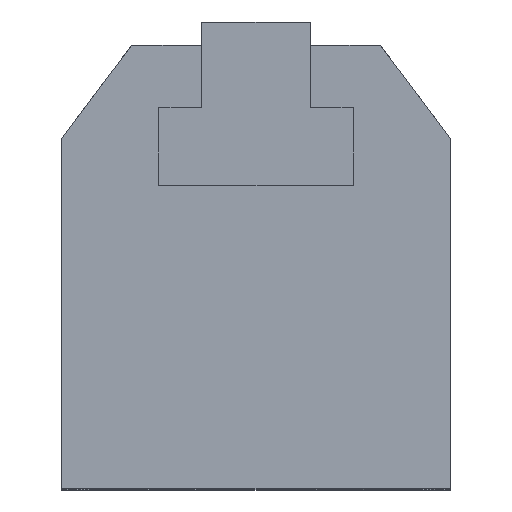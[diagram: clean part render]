
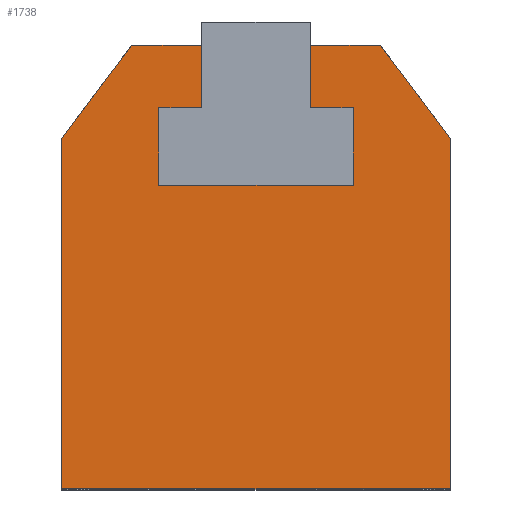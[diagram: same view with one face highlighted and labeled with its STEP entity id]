
A CAD part, top view. The second image highlights one B-rep face of the part: STEP entity #1738.
In plain terms, the highlighted planar face has unit normal (0, 0, 1).
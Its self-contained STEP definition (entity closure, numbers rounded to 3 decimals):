
#6 = EDGE_CURVE ( 'NONE', #269, #7108, #4078, .T. ) ;
#13 = CARTESIAN_POINT ( 'NONE',  ( 0., 0., 50. ) ) ;
#73 = CARTESIAN_POINT ( 'NONE',  ( -12.5, 49., 50. ) ) ;
#76 = VERTEX_POINT ( 'NONE', #3432 ) ;
#100 = VECTOR ( 'NONE', #998, 1000. ) ;
#157 = CARTESIAN_POINT ( 'NONE',  ( -7., 49., 50. ) ) ;
#205 = EDGE_CURVE ( 'NONE', #5886, #3771, #6525, .T. ) ;
#269 = VERTEX_POINT ( 'NONE', #5366 ) ;
#473 = VECTOR ( 'NONE', #3953, 1000. ) ;
#515 = ORIENTED_EDGE ( 'NONE', *, *, #4566, .F. ) ;
#604 = ORIENTED_EDGE ( 'NONE', *, *, #205, .T. ) ;
#649 = EDGE_LOOP ( 'NONE', ( #2380, #6045, #4523, #3733, #515, #1036, #5320, #7314, #4438, #5302, #7344, #3321, #1794, #604 ) ) ;
#878 = CARTESIAN_POINT ( 'NONE',  ( 7., 49., 50. ) ) ;
#998 = DIRECTION ( 'NONE',  ( 0., -1., 0. ) ) ;
#1036 = ORIENTED_EDGE ( 'NONE', *, *, #1790, .F. ) ;
#1047 = CARTESIAN_POINT ( 'NONE',  ( -7., 57., 50. ) ) ;
#1069 = CARTESIAN_POINT ( 'NONE',  ( -25., 45., 50. ) ) ;
#1180 = VERTEX_POINT ( 'NONE', #5367 ) ;
#1291 = DIRECTION ( 'NONE',  ( 0., 0., -1. ) ) ;
#1383 = LINE ( 'NONE', #7462, #4200 ) ;
#1462 = CARTESIAN_POINT ( 'NONE',  ( 12.5, 49., 50. ) ) ;
#1511 = AXIS2_PLACEMENT_3D ( 'NONE', #13, #1291, #6619 ) ;
#1524 = VERTEX_POINT ( 'NONE', #1047 ) ;
#1548 = CARTESIAN_POINT ( 'NONE',  ( -16., 57., 50. ) ) ;
#1655 = LINE ( 'NONE', #3990, #6341 ) ;
#1738 = ADVANCED_FACE ( 'NONE', ( #4762 ), #7262, .F. ) ;
#1790 = EDGE_CURVE ( 'NONE', #4654, #6686, #5141, .T. ) ;
#1794 = ORIENTED_EDGE ( 'NONE', *, *, #1883, .T. ) ;
#1834 = LINE ( 'NONE', #4900, #3413 ) ;
#1840 = VECTOR ( 'NONE', #7058, 1000. ) ;
#1878 = CARTESIAN_POINT ( 'NONE',  ( -7., 49., 50. ) ) ;
#1883 = EDGE_CURVE ( 'NONE', #5847, #5886, #2344, .T. ) ;
#1983 = LINE ( 'NONE', #1548, #473 ) ;
#2158 = CARTESIAN_POINT ( 'NONE',  ( 12.5, 39., 50. ) ) ;
#2231 = CARTESIAN_POINT ( 'NONE',  ( 16., 57., 50. ) ) ;
#2344 = LINE ( 'NONE', #2506, #7479 ) ;
#2380 = ORIENTED_EDGE ( 'NONE', *, *, #6294, .T. ) ;
#2473 = CARTESIAN_POINT ( 'NONE',  ( -12.5, 49., 50. ) ) ;
#2506 = CARTESIAN_POINT ( 'NONE',  ( 25., 0., 50. ) ) ;
#2557 = EDGE_CURVE ( 'NONE', #1524, #1180, #1383, .T. ) ;
#2769 = CARTESIAN_POINT ( 'NONE',  ( 16., 57., 50. ) ) ;
#2853 = CARTESIAN_POINT ( 'NONE',  ( 12.5, 39., 50. ) ) ;
#2997 = VECTOR ( 'NONE', #6503, 1000. ) ;
#3145 = LINE ( 'NONE', #3525, #7174 ) ;
#3176 = DIRECTION ( 'NONE',  ( 1., 0., 0. ) ) ;
#3206 = EDGE_CURVE ( 'NONE', #4954, #269, #1655, .T. ) ;
#3321 = ORIENTED_EDGE ( 'NONE', *, *, #4814, .T. ) ;
#3413 = VECTOR ( 'NONE', #3176, 1000. ) ;
#3432 = CARTESIAN_POINT ( 'NONE',  ( -25., 0., 50. ) ) ;
#3525 = CARTESIAN_POINT ( 'NONE',  ( -12.5, 39., 50. ) ) ;
#3526 = VECTOR ( 'NONE', #4956, 1000. ) ;
#3670 = VECTOR ( 'NONE', #4561, 1000. ) ;
#3733 = ORIENTED_EDGE ( 'NONE', *, *, #4336, .F. ) ;
#3771 = VERTEX_POINT ( 'NONE', #2231 ) ;
#3797 = VECTOR ( 'NONE', #4482, 1000. ) ;
#3953 = DIRECTION ( 'NONE',  ( -0.6, -0.8, 0. ) ) ;
#3990 = CARTESIAN_POINT ( 'NONE',  ( 12.5, 49., 50. ) ) ;
#4032 = CARTESIAN_POINT ( 'NONE',  ( 25., 45., 50. ) ) ;
#4078 = LINE ( 'NONE', #878, #1840 ) ;
#4200 = VECTOR ( 'NONE', #5652, 1000. ) ;
#4283 = EDGE_CURVE ( 'NONE', #6969, #4654, #4443, .T. ) ;
#4336 = EDGE_CURVE ( 'NONE', #7334, #4954, #6991, .T. ) ;
#4438 = ORIENTED_EDGE ( 'NONE', *, *, #2557, .T. ) ;
#4443 = LINE ( 'NONE', #157, #3526 ) ;
#4482 = DIRECTION ( 'NONE',  ( 0., 1., 0. ) ) ;
#4523 = ORIENTED_EDGE ( 'NONE', *, *, #3206, .F. ) ;
#4543 = VERTEX_POINT ( 'NONE', #7728 ) ;
#4561 = DIRECTION ( 'NONE',  ( -1., 0., 0. ) ) ;
#4566 = EDGE_CURVE ( 'NONE', #6686, #7334, #3145, .T. ) ;
#4654 = VERTEX_POINT ( 'NONE', #73 ) ;
#4674 = VECTOR ( 'NONE', #6637, 1000. ) ;
#4762 = FACE_OUTER_BOUND ( 'NONE', #649, .T. ) ;
#4814 = EDGE_CURVE ( 'NONE', #76, #5847, #1834, .T. ) ;
#4900 = CARTESIAN_POINT ( 'NONE',  ( -25., 0., 50. ) ) ;
#4954 = VERTEX_POINT ( 'NONE', #1462 ) ;
#4956 = DIRECTION ( 'NONE',  ( -1., 0., 0. ) ) ;
#5006 = VECTOR ( 'NONE', #5805, 1000. ) ;
#5141 = LINE ( 'NONE', #2473, #4674 ) ;
#5190 = CARTESIAN_POINT ( 'NONE',  ( -12.5, 39., 50. ) ) ;
#5250 = DIRECTION ( 'NONE',  ( -1., 0., 0. ) ) ;
#5262 = LINE ( 'NONE', #2769, #3670 ) ;
#5302 = ORIENTED_EDGE ( 'NONE', *, *, #6263, .T. ) ;
#5320 = ORIENTED_EDGE ( 'NONE', *, *, #4283, .F. ) ;
#5326 = CARTESIAN_POINT ( 'NONE',  ( 25., 45., 50. ) ) ;
#5357 = LINE ( 'NONE', #7624, #100 ) ;
#5366 = CARTESIAN_POINT ( 'NONE',  ( 7., 49., 50. ) ) ;
#5367 = CARTESIAN_POINT ( 'NONE',  ( -16., 57., 50. ) ) ;
#5652 = DIRECTION ( 'NONE',  ( -1., 0., 0. ) ) ;
#5772 = EDGE_CURVE ( 'NONE', #1524, #6969, #5357, .T. ) ;
#5805 = DIRECTION ( 'NONE',  ( -0.6, 0.8, 0. ) ) ;
#5847 = VERTEX_POINT ( 'NONE', #7094 ) ;
#5873 = DIRECTION ( 'NONE',  ( 1., 0., 0. ) ) ;
#5886 = VERTEX_POINT ( 'NONE', #5326 ) ;
#6045 = ORIENTED_EDGE ( 'NONE', *, *, #6, .F. ) ;
#6173 = LINE ( 'NONE', #1069, #2997 ) ;
#6263 = EDGE_CURVE ( 'NONE', #1180, #4543, #1983, .T. ) ;
#6294 = EDGE_CURVE ( 'NONE', #3771, #7108, #5262, .T. ) ;
#6341 = VECTOR ( 'NONE', #5250, 1000. ) ;
#6503 = DIRECTION ( 'NONE',  ( 0., -1., 0. ) ) ;
#6525 = LINE ( 'NONE', #4032, #5006 ) ;
#6619 = DIRECTION ( 'NONE',  ( -1., 0., 0. ) ) ;
#6637 = DIRECTION ( 'NONE',  ( 0., -1., 0. ) ) ;
#6686 = VERTEX_POINT ( 'NONE', #5190 ) ;
#6708 = DIRECTION ( 'NONE',  ( 0., 1., 0. ) ) ;
#6864 = CARTESIAN_POINT ( 'NONE',  ( 7., 57., 50. ) ) ;
#6969 = VERTEX_POINT ( 'NONE', #1878 ) ;
#6991 = LINE ( 'NONE', #2853, #3797 ) ;
#7058 = DIRECTION ( 'NONE',  ( 0., 1., 0. ) ) ;
#7094 = CARTESIAN_POINT ( 'NONE',  ( 25., 0., 50. ) ) ;
#7108 = VERTEX_POINT ( 'NONE', #6864 ) ;
#7174 = VECTOR ( 'NONE', #5873, 1000. ) ;
#7262 = PLANE ( 'NONE',  #1511 ) ;
#7314 = ORIENTED_EDGE ( 'NONE', *, *, #5772, .F. ) ;
#7334 = VERTEX_POINT ( 'NONE', #2158 ) ;
#7344 = ORIENTED_EDGE ( 'NONE', *, *, #7447, .T. ) ;
#7447 = EDGE_CURVE ( 'NONE', #4543, #76, #6173, .T. ) ;
#7462 = CARTESIAN_POINT ( 'NONE',  ( 16., 57., 50. ) ) ;
#7479 = VECTOR ( 'NONE', #6708, 1000. ) ;
#7624 = CARTESIAN_POINT ( 'NONE',  ( -7., 60., 50. ) ) ;
#7728 = CARTESIAN_POINT ( 'NONE',  ( -25., 45., 50. ) ) ;
